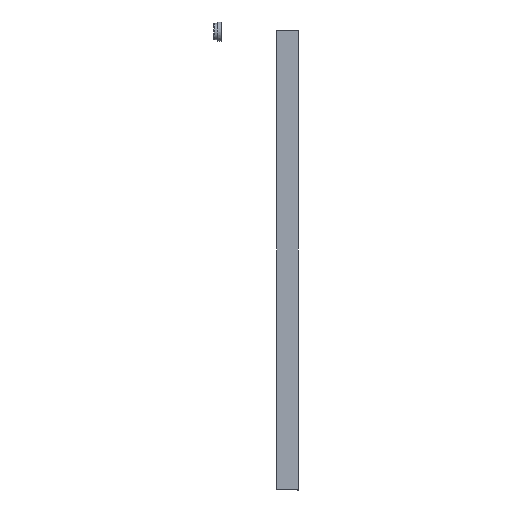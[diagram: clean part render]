
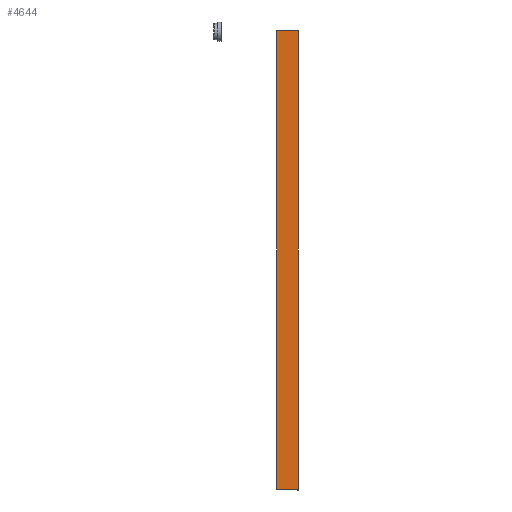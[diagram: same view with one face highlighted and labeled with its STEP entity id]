
A CAD part, left-side view. The second image highlights one B-rep face of the part: STEP entity #4644.
In plain terms, the highlighted planar face has unit normal (-1, 0, 0).
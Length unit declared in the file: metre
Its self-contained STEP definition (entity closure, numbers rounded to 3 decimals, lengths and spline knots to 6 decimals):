
#160=PLANE('',#5075);
#381=FACE_OUTER_BOUND('',#662,.T.);
#662=EDGE_LOOP('',(#3645,#3646,#3647,#3648));
#1206=LINE('',#7254,#1679);
#1228=LINE('',#7347,#1701);
#1230=LINE('',#7354,#1703);
#1231=LINE('',#7355,#1704);
#1679=VECTOR('',#5883,0.1094);
#1701=VECTOR('',#5951,0.1094);
#1703=VECTOR('',#5959,2.368);
#1704=VECTOR('',#5960,2.368);
#2153=VERTEX_POINT('',#7251);
#2154=VERTEX_POINT('',#7253);
#2189=VERTEX_POINT('',#7344);
#2190=VERTEX_POINT('',#7346);
#2684=EDGE_CURVE('',#2153,#2154,#1206,.T.);
#2728=EDGE_CURVE('',#2190,#2189,#1228,.T.);
#2732=EDGE_CURVE('',#2153,#2190,#1230,.T.);
#2733=EDGE_CURVE('',#2189,#2154,#1231,.F.);
#3645=ORIENTED_EDGE('',*,*,#2684,.F.);
#3646=ORIENTED_EDGE('',*,*,#2732,.T.);
#3647=ORIENTED_EDGE('',*,*,#2728,.T.);
#3648=ORIENTED_EDGE('',*,*,#2733,.T.);
#4644=ADVANCED_FACE('',(#381),#160,.F.);
#5075=AXIS2_PLACEMENT_3D('',#7353,#5957,#5958);
#5883=DIRECTION('',(0.,1.,0.));
#5951=DIRECTION('',(0.,1.,0.));
#5957=DIRECTION('center_axis',(1.,0.,0.));
#5958=DIRECTION('ref_axis',(0.,0.,-1.));
#5959=DIRECTION('',(0.,0.,1.));
#5960=DIRECTION('',(0.,0.,1.));
#7251=CARTESIAN_POINT('',(-0.0225,0.0003,-1.184));
#7253=CARTESIAN_POINT('',(-0.0225,0.1097,-1.184));
#7254=CARTESIAN_POINT('',(-0.0225,0.0003,-1.184));
#7344=CARTESIAN_POINT('',(-0.0225,0.1097,1.184));
#7346=CARTESIAN_POINT('',(-0.0225,0.0003,1.184));
#7347=CARTESIAN_POINT('',(-0.0225,0.0003,1.184));
#7353=CARTESIAN_POINT('Origin',(-0.0225,0.,-0.592));
#7354=CARTESIAN_POINT('',(-0.0225,0.0003,-1.184));
#7355=CARTESIAN_POINT('',(-0.0225,0.1097,-1.184));
